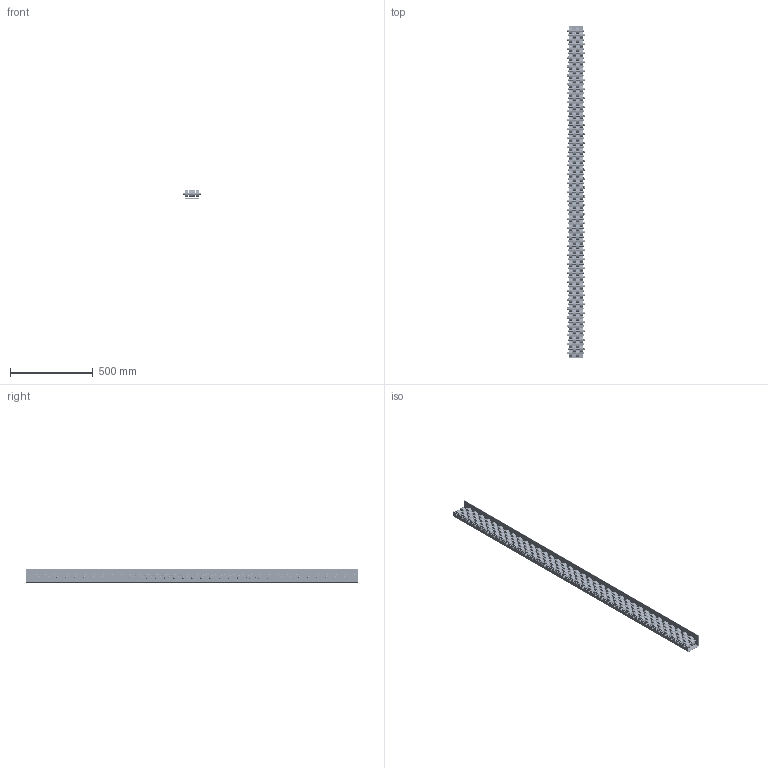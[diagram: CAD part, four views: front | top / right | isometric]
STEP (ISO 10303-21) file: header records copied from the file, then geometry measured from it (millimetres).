
FILE_DESCRIPTION(/* description */ ('Unknown'),/* implementation_level */ '2;1');
FILE_NAME(/* name */ 'Listwa T686L',/* time_stamp */ '2022-11-30T10:32:15+01:00',/* author */ ('Unknown'),/* organization */ ('Unknown'),/* preprocessor_version */ 'ST-DEVELOPER v16.7',/* originating_system */ 'Solid Edge',/* authorisation */ 'Unknown');
FILE_SCHEMA (('AUTOMOTIVE_DESIGN {1 0 10303 214 3 1 1}'));
Length unit declared in the file: millimetre
Products named in the file (7): 1540-03-00_956L; 1540-00-02; Nut_DIN_980_M8_v10.50; Bolt_DIN_931_M8x100_14.00; Rolka fi 42; Tulejka fi8_30mm; Tulejka fi8_21mm
Assembly tree (439 placements, depth 2):
  1540-03-00_956L
    1540-00-02
    Nut_DIN_980_M8_v10.50  x73
    Bolt_DIN_931_M8x100_14.00  x73
    Rolka fi 42  x146
    Tulejka fi8_30mm  x73
    Tulejka fi8_21mm  x73
Bounding box: 110 x 2000 x 80 mm (x, y, z)
Volume: 4262196.7 mm3; surface area: 2441156.1 mm2
Topology: 439 solids, 439 shells, 11921 faces, 30071 edges, 19758 vertices
Faces by surface type: plane 8332, cylinder 1910, cone 1095, torus 584
Full cylindrical faces by diameter (mm): 6.466 x73, 6.647 x73, 6.697 x73, 8 x146, 8.2 x154, 8.3 x292, 8.4 x73, 10.2 x146, 11.63 x73, 12.5 x73, 14 x292, 30 x146, 32 x146, 42 x146
Entity records: 12659 total; most frequent: DIRECTION 2376, CARTESIAN_POINT 1895, ORIENTED_EDGE 1140, AXIS2_PLACEMENT_3D 1125, EDGE_LOOP 782, FACE_BOUND 782, EDGE_CURVE 570, VERTEX_POINT 494
